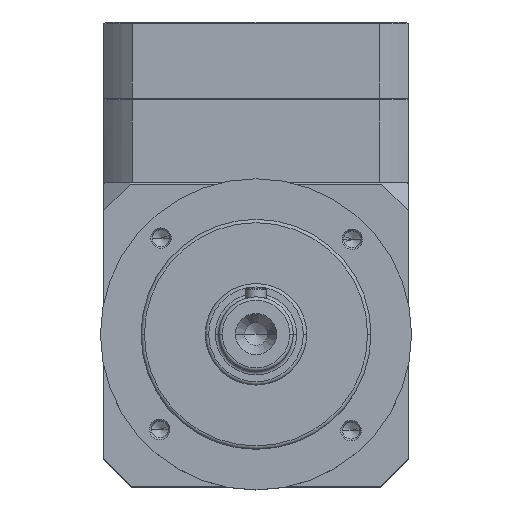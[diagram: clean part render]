
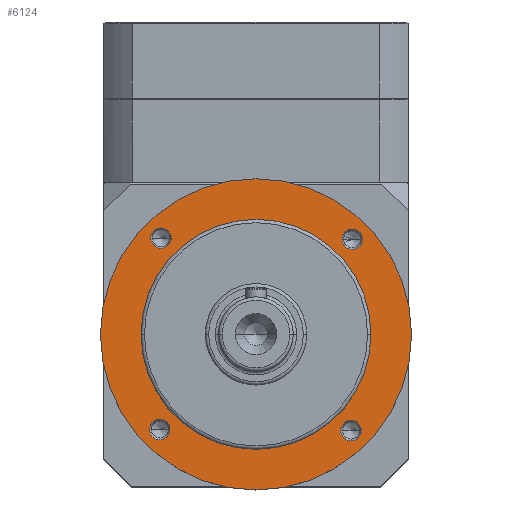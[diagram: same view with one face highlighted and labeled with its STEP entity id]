
A CAD part, top view. The second image highlights one B-rep face of the part: STEP entity #6124.
In plain terms, the highlighted planar face has unit normal (0, 0, 1).
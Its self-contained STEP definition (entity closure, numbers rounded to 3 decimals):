
#113 = AXIS2_PLACEMENT_3D ( 'NONE', #6690, #3519, #300 ) ;
#193 = AXIS2_PLACEMENT_3D ( 'NONE', #1027, #4786, #1587 ) ;
#243 = ORIENTED_EDGE ( 'NONE', *, *, #3854, .F. ) ;
#273 = ORIENTED_EDGE ( 'NONE', *, *, #2101, .F. ) ;
#288 = VERTEX_POINT ( 'NONE', #4246 ) ;
#300 = DIRECTION ( 'NONE',  ( 1., 0., 0. ) ) ;
#314 = DIRECTION ( 'NONE',  ( 0., 0., 1. ) ) ;
#511 = ORIENTED_EDGE ( 'NONE', *, *, #3497, .F. ) ;
#632 = FACE_BOUND ( 'NONE', #3749, .T. ) ;
#637 = CARTESIAN_POINT ( 'NONE',  ( 0., 0., 0. ) ) ;
#803 = ORIENTED_EDGE ( 'NONE', *, *, #4108, .F. ) ;
#819 = EDGE_CURVE ( 'NONE', #1597, #1803, #1466, .T. ) ;
#878 = CARTESIAN_POINT ( 'NONE',  ( 0., 0., 0. ) ) ;
#1003 = ORIENTED_EDGE ( 'NONE', *, *, #1434, .T. ) ;
#1027 = CARTESIAN_POINT ( 'NONE',  ( -28.457, -28.111, 0. ) ) ;
#1139 = AXIS2_PLACEMENT_3D ( 'NONE', #2813, #6542, #3353 ) ;
#1278 = CARTESIAN_POINT ( 'NONE',  ( 31.136, -28.457, 0. ) ) ;
#1281 = ORIENTED_EDGE ( 'NONE', *, *, #1438, .F. ) ;
#1335 = VERTEX_POINT ( 'NONE', #5093 ) ;
#1428 = DIRECTION ( 'NONE',  ( 1., 0., 0. ) ) ;
#1434 = EDGE_CURVE ( 'NONE', #5031, #5147, #2462, .T. ) ;
#1438 = EDGE_CURVE ( 'NONE', #4137, #6330, #4365, .T. ) ;
#1450 = AXIS2_PLACEMENT_3D ( 'NONE', #2523, #6255, #3040 ) ;
#1453 = EDGE_LOOP ( 'NONE', ( #803, #243 ) ) ;
#1466 = CIRCLE ( 'NONE', #4921, 3.025 ) ;
#1587 = DIRECTION ( 'NONE',  ( 1., 0., 0. ) ) ;
#1597 = VERTEX_POINT ( 'NONE', #2450 ) ;
#1803 = VERTEX_POINT ( 'NONE', #2412 ) ;
#2067 = CIRCLE ( 'NONE', #5267, 34. ) ;
#2101 = EDGE_CURVE ( 'NONE', #288, #1335, #5103, .T. ) ;
#2170 = DIRECTION ( 'NONE',  ( 0., 0., 1. ) ) ;
#2412 = CARTESIAN_POINT ( 'NONE',  ( -31.482, -28.111, 0. ) ) ;
#2424 = ORIENTED_EDGE ( 'NONE', *, *, #3537, .F. ) ;
#2450 = CARTESIAN_POINT ( 'NONE',  ( -25.432, -28.111, 0. ) ) ;
#2462 = CIRCLE ( 'NONE', #5770, 46. ) ;
#2523 = CARTESIAN_POINT ( 'NONE',  ( -28.111, 28.457, 0. ) ) ;
#2578 = CIRCLE ( 'NONE', #113, 3.025 ) ;
#2676 = CARTESIAN_POINT ( 'NONE',  ( -34., 0., 0. ) ) ;
#2681 = FACE_BOUND ( 'NONE', #4250, .T. ) ;
#2687 = DIRECTION ( 'NONE',  ( 0., 0., 1. ) ) ;
#2751 = CIRCLE ( 'NONE', #3964, 3.025 ) ;
#2769 = VERTEX_POINT ( 'NONE', #1278 ) ;
#2813 = CARTESIAN_POINT ( 'NONE',  ( 28.111, -28.457, 0. ) ) ;
#2947 = CIRCLE ( 'NONE', #5226, 46. ) ;
#3009 = AXIS2_PLACEMENT_3D ( 'NONE', #878, #4633, #1428 ) ;
#3019 = CARTESIAN_POINT ( 'NONE',  ( 31.482, 28.111, 0. ) ) ;
#3040 = DIRECTION ( 'NONE',  ( 1., 0., 0. ) ) ;
#3092 = CARTESIAN_POINT ( 'NONE',  ( -28.457, -28.111, 0. ) ) ;
#3101 = AXIS2_PLACEMENT_3D ( 'NONE', #3954, #3932, #4489 ) ;
#3102 = DIRECTION ( 'NONE',  ( 0., 0., 1. ) ) ;
#3108 = DIRECTION ( 'NONE',  ( 1., 0., 0. ) ) ;
#3353 = DIRECTION ( 'NONE',  ( 1., 0., 0. ) ) ;
#3397 = VERTEX_POINT ( 'NONE', #6558 ) ;
#3427 = PLANE ( 'NONE',  #3101 ) ;
#3497 = EDGE_CURVE ( 'NONE', #6330, #4137, #2578, .T. ) ;
#3519 = DIRECTION ( 'NONE',  ( 0., 0., 1. ) ) ;
#3531 = CARTESIAN_POINT ( 'NONE',  ( 28.111, -28.457, 0. ) ) ;
#3537 = EDGE_CURVE ( 'NONE', #1335, #288, #4526, .T. ) ;
#3634 = ORIENTED_EDGE ( 'NONE', *, *, #3672, .F. ) ;
#3672 = EDGE_CURVE ( 'NONE', #1803, #1597, #5504, .T. ) ;
#3749 = EDGE_LOOP ( 'NONE', ( #6552, #3634 ) ) ;
#3773 = ORIENTED_EDGE ( 'NONE', *, *, #4966, .F. ) ;
#3795 = CARTESIAN_POINT ( 'NONE',  ( -46., 0., 0. ) ) ;
#3854 = EDGE_CURVE ( 'NONE', #6805, #2769, #5509, .T. ) ;
#3908 = FACE_BOUND ( 'NONE', #5060, .T. ) ;
#3910 = FACE_BOUND ( 'NONE', #3948, .T. ) ;
#3932 = DIRECTION ( 'NONE',  ( 0., 0., 1. ) ) ;
#3948 = EDGE_LOOP ( 'NONE', ( #273, #2424 ) ) ;
#3954 = CARTESIAN_POINT ( 'NONE',  ( 0., 0., 0. ) ) ;
#3964 = AXIS2_PLACEMENT_3D ( 'NONE', #3531, #314, #4061 ) ;
#4061 = DIRECTION ( 'NONE',  ( 1., 0., 0. ) ) ;
#4108 = EDGE_CURVE ( 'NONE', #2769, #6805, #2751, .T. ) ;
#4137 = VERTEX_POINT ( 'NONE', #4606 ) ;
#4246 = CARTESIAN_POINT ( 'NONE',  ( -25.086, 28.457, 0. ) ) ;
#4250 = EDGE_LOOP ( 'NONE', ( #511, #1281 ) ) ;
#4365 = CIRCLE ( 'NONE', #6482, 3.025 ) ;
#4489 = DIRECTION ( 'NONE',  ( 1., 0., 0. ) ) ;
#4526 = CIRCLE ( 'NONE', #1450, 3.025 ) ;
#4545 = ORIENTED_EDGE ( 'NONE', *, *, #4983, .T. ) ;
#4606 = CARTESIAN_POINT ( 'NONE',  ( 25.432, 28.111, 0. ) ) ;
#4633 = DIRECTION ( 'NONE',  ( 0., 0., 1. ) ) ;
#4786 = DIRECTION ( 'NONE',  ( 0., 0., 1. ) ) ;
#4921 = AXIS2_PLACEMENT_3D ( 'NONE', #3092, #3102, #3108 ) ;
#4962 = DIRECTION ( 'NONE',  ( 1., 0., 0. ) ) ;
#4966 = EDGE_CURVE ( 'NONE', #5946, #3397, #2067, .T. ) ;
#4983 = EDGE_CURVE ( 'NONE', #5147, #5031, #2947, .T. ) ;
#5031 = VERTEX_POINT ( 'NONE', #3795 ) ;
#5060 = EDGE_LOOP ( 'NONE', ( #3773, #5696 ) ) ;
#5091 = CIRCLE ( 'NONE', #3009, 34. ) ;
#5093 = CARTESIAN_POINT ( 'NONE',  ( -31.136, 28.457, 0. ) ) ;
#5103 = CIRCLE ( 'NONE', #6468, 3.025 ) ;
#5133 = DIRECTION ( 'NONE',  ( 1., 0., 0. ) ) ;
#5147 = VERTEX_POINT ( 'NONE', #5527 ) ;
#5157 = DIRECTION ( 'NONE',  ( 0., 0., 1. ) ) ;
#5160 = CARTESIAN_POINT ( 'NONE',  ( -28.111, 28.457, 0. ) ) ;
#5226 = AXIS2_PLACEMENT_3D ( 'NONE', #5376, #2170, #5911 ) ;
#5267 = AXIS2_PLACEMENT_3D ( 'NONE', #5888, #2687, #6418 ) ;
#5343 = EDGE_CURVE ( 'NONE', #3397, #5946, #5091, .T. ) ;
#5376 = CARTESIAN_POINT ( 'NONE',  ( 0., 0., 0. ) ) ;
#5500 = EDGE_LOOP ( 'NONE', ( #4545, #1003 ) ) ;
#5504 = CIRCLE ( 'NONE', #193, 3.025 ) ;
#5509 = CIRCLE ( 'NONE', #1139, 3.025 ) ;
#5527 = CARTESIAN_POINT ( 'NONE',  ( 46., 0., 0. ) ) ;
#5696 = ORIENTED_EDGE ( 'NONE', *, *, #5343, .F. ) ;
#5706 = CARTESIAN_POINT ( 'NONE',  ( 25.086, -28.457, 0. ) ) ;
#5712 = DIRECTION ( 'NONE',  ( 0., 0., 1. ) ) ;
#5718 = FACE_BOUND ( 'NONE', #1453, .T. ) ;
#5740 = DIRECTION ( 'NONE',  ( 1., 0., 0. ) ) ;
#5749 = FACE_OUTER_BOUND ( 'NONE', #5500, .T. ) ;
#5770 = AXIS2_PLACEMENT_3D ( 'NONE', #637, #5712, #5740 ) ;
#5888 = CARTESIAN_POINT ( 'NONE',  ( 0., 0., 0. ) ) ;
#5911 = DIRECTION ( 'NONE',  ( 1., 0., 0. ) ) ;
#5946 = VERTEX_POINT ( 'NONE', #2676 ) ;
#6124 = ADVANCED_FACE ( 'NONE', ( #3910, #2681, #5718, #632, #5749, #3908 ), #3427, .T. ) ;
#6255 = DIRECTION ( 'NONE',  ( 0., 0., 1. ) ) ;
#6330 = VERTEX_POINT ( 'NONE', #3019 ) ;
#6418 = DIRECTION ( 'NONE',  ( 1., 0., 0. ) ) ;
#6468 = AXIS2_PLACEMENT_3D ( 'NONE', #5160, #5157, #5133 ) ;
#6482 = AXIS2_PLACEMENT_3D ( 'NONE', #6502, #6791, #4962 ) ;
#6502 = CARTESIAN_POINT ( 'NONE',  ( 28.457, 28.111, 0. ) ) ;
#6542 = DIRECTION ( 'NONE',  ( 0., 0., 1. ) ) ;
#6552 = ORIENTED_EDGE ( 'NONE', *, *, #819, .F. ) ;
#6558 = CARTESIAN_POINT ( 'NONE',  ( 34., 0., 0. ) ) ;
#6690 = CARTESIAN_POINT ( 'NONE',  ( 28.457, 28.111, 0. ) ) ;
#6791 = DIRECTION ( 'NONE',  ( 0., 0., 1. ) ) ;
#6805 = VERTEX_POINT ( 'NONE', #5706 ) ;
